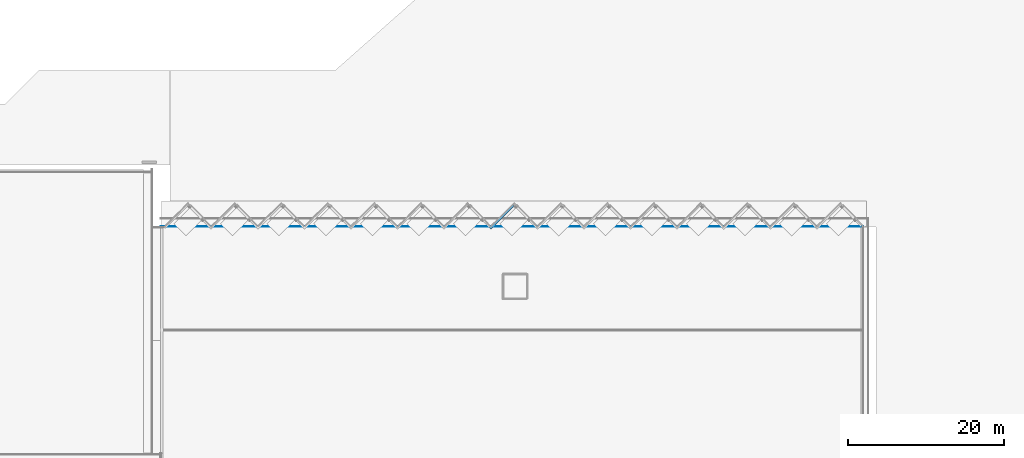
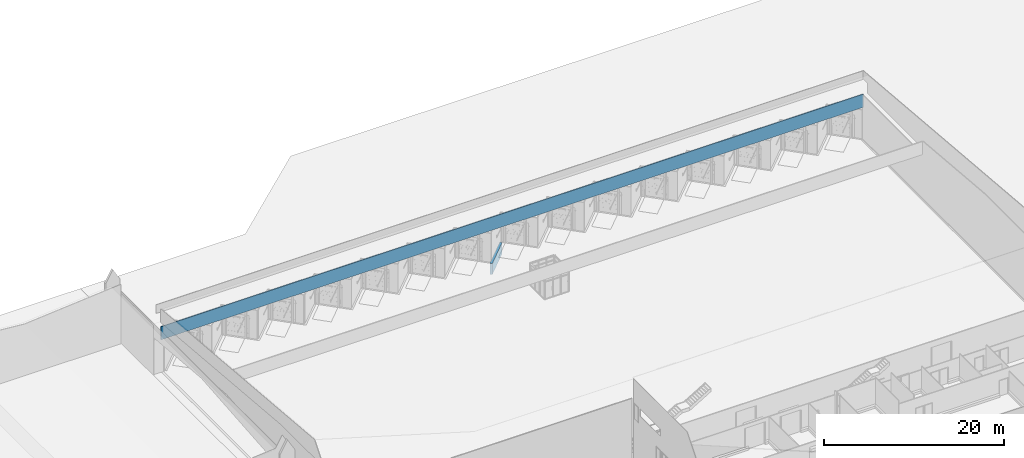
# One storey, part 37 of 64: 2 walls.
"""IFC2X3 building model written with IfcOpenShell, lengths in millimetres."""

from ifc_helpers import new_model, entity, si_unit, converted_unit, derived_unit, direction, frame, frame_2d, origin, place, context, subcontext, project, spatial, rectangle, extrude, material, layer, layer_set, layer_usage, type_object, element, save


model = new_model("IFC2X3")

# Units and contexts
model_context = context("Model", 3, precision=0.01, world=origin(), true_north=direction((4.05803320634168e-15, -1.0)))
body_context = subcontext(model_context, "Body", "Model", "MODEL_VIEW")
ifc_project = project(units=[si_unit("LENGTHUNIT", "METRE", prefix="MILLI"), si_unit("AREAUNIT", "SQUARE_METRE"), si_unit("VOLUMEUNIT", "CUBIC_METRE"), converted_unit("PLANEANGLEUNIT", "DEGREE", entity("IfcRatioMeasure", 0.0174532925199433), si_unit("PLANEANGLEUNIT", "RADIAN"), dimensions=[0, 0, 0, 0, 0, 0, 0]), si_unit("MASSUNIT", "GRAM", prefix="KILO"), derived_unit("MASSDENSITYUNIT", [(si_unit("MASSUNIT", "GRAM", prefix="KILO"), 1), (si_unit("LENGTHUNIT", "METRE"), -3)]), si_unit("TIMEUNIT", "SECOND"), si_unit("FREQUENCYUNIT", "HERTZ"), si_unit("THERMODYNAMICTEMPERATUREUNIT", "DEGREE_CELSIUS"), derived_unit("THERMALTRANSMITTANCEUNIT", [(si_unit("MASSUNIT", "GRAM", prefix="KILO"), 1), (si_unit("THERMODYNAMICTEMPERATUREUNIT", "KELVIN"), -1), (si_unit("TIMEUNIT", "SECOND"), -3)]), derived_unit("VOLUMETRICFLOWRATEUNIT", [(si_unit("LENGTHUNIT", "METRE"), 3), (si_unit("TIMEUNIT", "SECOND"), -1)]), si_unit("ELECTRICCURRENTUNIT", "AMPERE"), si_unit("ELECTRICVOLTAGEUNIT", "VOLT"), si_unit("POWERUNIT", "WATT"), si_unit("FORCEUNIT", "NEWTON", prefix="KILO"), si_unit("ILLUMINANCEUNIT", "LUX"), si_unit("LUMINOUSFLUXUNIT", "LUMEN"), si_unit("LUMINOUSINTENSITYUNIT", "CANDELA"), derived_unit("USERDEFINED", [(si_unit("MASSUNIT", "GRAM", prefix="KILO"), -1), (si_unit("LENGTHUNIT", "METRE"), -2), (si_unit("TIMEUNIT", "SECOND"), 3), (si_unit("LUMINOUSFLUXUNIT", "LUMEN"), 1)]), derived_unit("LINEARVELOCITYUNIT", [(si_unit("LENGTHUNIT", "METRE"), 1), (si_unit("TIMEUNIT", "SECOND"), -1)]), si_unit("PRESSUREUNIT", "PASCAL"), derived_unit("USERDEFINED", [(si_unit("LENGTHUNIT", "METRE"), -2), (si_unit("MASSUNIT", "GRAM", prefix="KILO"), 1), (si_unit("TIMEUNIT", "SECOND"), -2)])], contexts=[model_context])

# Site, building, storey
site_placement = place(None, frame((927466.849349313, 583801.882853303, 0.0), z_axis=(0.0, 0.0, 1.0), x_axis=(-1.0, 0.0, 0.0)))
site = spatial("IfcSite", under=ifc_project, at=site_placement, Name="Surface", CompositionType="ELEMENT")
building_placement = place(site_placement, origin())
building = spatial("IfcBuilding", under=site, at=building_placement, CompositionType="ELEMENT")
storey_placement = place(building_placement, frame((0.0, 0.0, 44170.0)))
storey = spatial("IfcBuildingStorey", under=building, at=storey_placement, Name="Ground FFL", CompositionType="ELEMENT", Elevation=44170.0)

# Walls
ifc_material_1 = material(Name="Isopenal")
ifc_layer_1 = layer(ifc_material_1, 100.0)
ifc_layer_set_1 = layer_set([ifc_layer_1], Name="Basic Wall:Isopanel")
ifc_layer_usage_1 = layer_usage(ifc_layer_set_1, "AXIS2", "POSITIVE", -50.0)
wall_type_1 = type_object("IfcWallType", Name="Basic Wall:Isopanel", PredefinedType="STANDARD", material=ifc_layer_set_1)
wall_1_placement = place(storey_placement, frame((-44618.0423298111, -30606.740321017, 4301.32958643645), z_axis=(0.0, 0.0, 1.0), x_axis=(-1.0, 0.0, 0.0)))
element("IfcWallStandardCase", 1, at=wall_1_placement, inside=storey, type_object=wall_type_1, material=ifc_layer_usage_1, Name="Basic Wall:Isopanel", ObjectType="Basic Wall:Isopanel", context=body_context, shape_type="SweptSolid", body=[
    extrude(rectangle(XDim=90282.549450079, YDim=100.000000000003, at=frame_2d((45141.2747250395, -3.87245790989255e-13), x_axis=(-1.0, 0.0))), origin(), (0.0, 0.0, 1.0), 1778.67041356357),
])
ifc_material_2 = material(Name="conc bund")
ifc_layer_2 = layer(ifc_material_2, 300.0)
ifc_layer_set_2 = layer_set([ifc_layer_2], Name="Basic Wall:300 bund wall")
ifc_layer_usage_2 = layer_usage(ifc_layer_set_2, "AXIS2", "POSITIVE", -150.0)
wall_type_2 = type_object("IfcWallType", Name="Basic Wall:300 bund wall", PredefinedType="STANDARD", material=ifc_layer_set_2)
wall_2_placement = place(storey_placement, frame((-89921.0473973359, -33356.1242200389, -1500.0), z_axis=(0.0, 0.0, 1.0), x_axis=(0.70710678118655, 0.707106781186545, 0.0)))
element("IfcWallStandardCase", 2, at=wall_2_placement, inside=storey, type_object=wall_type_2, material=ifc_layer_usage_2, Name="Basic Wall:300 bund wall", ObjectType="Basic Wall:300 bund wall", context=body_context, shape_type="SweptSolid", body=[
    extrude(rectangle(XDim=4232.26267936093, YDim=299.999999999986, at=frame_2d((2116.13133968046, -2.51532128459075e-12), x_axis=(-1.0, 0.0))), origin(), (0.0, 0.0, 1.0), 1500.00000000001),
])

save(model, "model.ifc")
